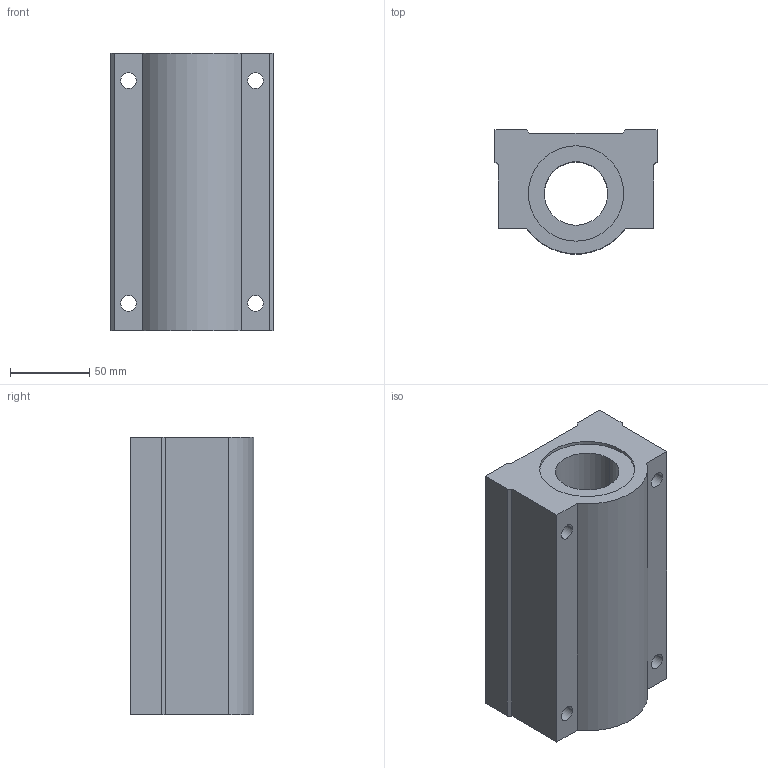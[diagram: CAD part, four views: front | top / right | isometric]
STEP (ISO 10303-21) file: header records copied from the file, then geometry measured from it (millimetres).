
FILE_DESCRIPTION((''),'2;1');
FILE_NAME('C:\Documents and Settings\ｿﾀﾀ蠑ｷ1\ｹﾙﾅﾁ ﾈｭｸ饅\ｺﾎﾇｰﾆﾄﾀﾏ\ﾁｦﾇｰ\SC__WUUN\SC40WUUN.stp','2005-06-22T11:03:26',('ｿﾀﾀ蠑ｷ1'),(''),'Autodesk Inventor 9','Autodesk Inventor 9','');
FILE_SCHEMA(('AUTOMOTIVE_DESIGN { 1 0 10303 214 1 1 1 1 }'));
Length unit declared in the file: millimetre
Products named in the file (1): SC__UUN
Bounding box: 102 x 77.86 x 175 mm (x, y, z)
Volume: 932955.4 mm3; surface area: 99476.1 mm2
Topology: 1 solids, 1 shells, 32 faces, 84 edges, 56 vertices
Faces by surface type: plane 17, bspline 8, cylinder 7
Entity records: 1145 total; most frequent: CARTESIAN_POINT 309, ORIENTED_EDGE 168, DIRECTION 164, EDGE_CURVE 84, VERTEX_POINT 56, AXIS2_PLACEMENT_3D 55, VECTOR 54, LINE 54
